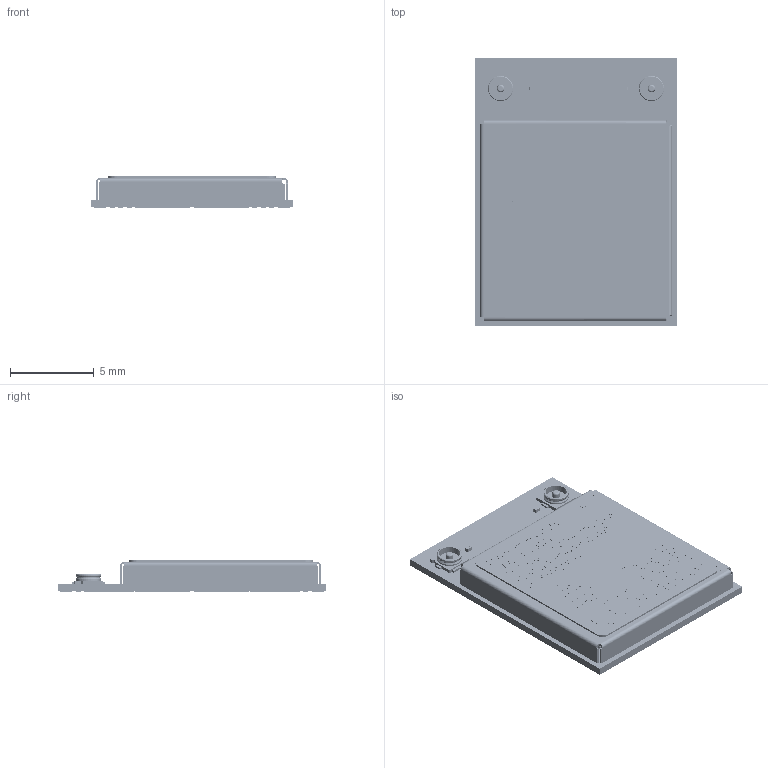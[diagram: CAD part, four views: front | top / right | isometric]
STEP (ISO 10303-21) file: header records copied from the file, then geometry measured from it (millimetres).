
FILE_DESCRIPTION (( 'STEP AP214' ), '1' );
FILE_NAME ('453-00157.STEP', '2026-05-25T10:28:14', ( '' ), ( '' ), 'SwSTEP 2.0', 'SolidWorks 2025', '' );
FILE_SCHEMA (( 'AUTOMOTIVE_DESIGN' ));
Length unit declared in the file: millimetre
Products named in the file (5): 940-00274; 110-00821; 453-00157; 160-02404_453-00157
Assembly tree (4 placements, depth 3):
  453-00157
    940-00274
      940-00274
      110-00821
    160-02404_453-00157
Bounding box: 12 x 16 x 1.85 mm (x, y, z)
Volume: 29.5 mm3; surface area: 1385.6 mm2
Topology: 2 solids, 365 shells, 12663 faces, 32498 edges, 20582 vertices
Faces by surface type: cylinder 5511, plane 5361, sphere 904, bspline 839, torus 36, cone 12
Entity records: 491919 total; most frequent: CARTESIAN_POINT 94772, DIRECTION 66599, ORIENTED_EDGE 64502, EDGE_CURVE 32342, AXIS2_PLACEMENT_3D 23647, VERTEX_POINT 20546, VECTOR 19305, LINE 19305
